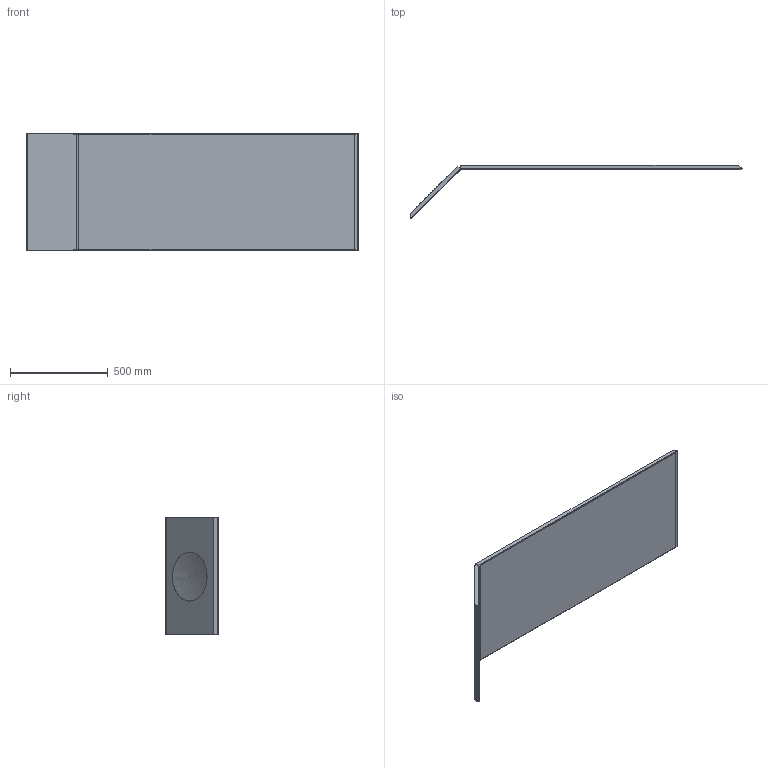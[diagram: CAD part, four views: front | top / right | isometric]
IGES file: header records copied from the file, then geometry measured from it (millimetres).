
Start section: Data from Parasolid IGES Translator 19.0.9, Copyright(c) 2006 Siemens PL M Software. All Rights Reserved.
Global section: file name: noorth-mirror-H 60 D 2,5 W 180_4244.igs; native system: By Siemens PLM Incorporated; preprocessor: XPlus GENERIC/IGES 19.0.9; author: Noname; organization: Noname; date: 20210721.093011; units: metre
Bounding box: 1697.36 x 274.85 x 600 mm (x, y, z)
Volume: 24209688.2 mm3; surface area: 4576613.1 mm2
Topology: 7 solids, 7 shells, 101 faces, 215 edges, 127 vertices
Faces by surface type: plane 83, cylinder 15, bspline 3
Full cylindrical faces by diameter (mm): 250 x1
